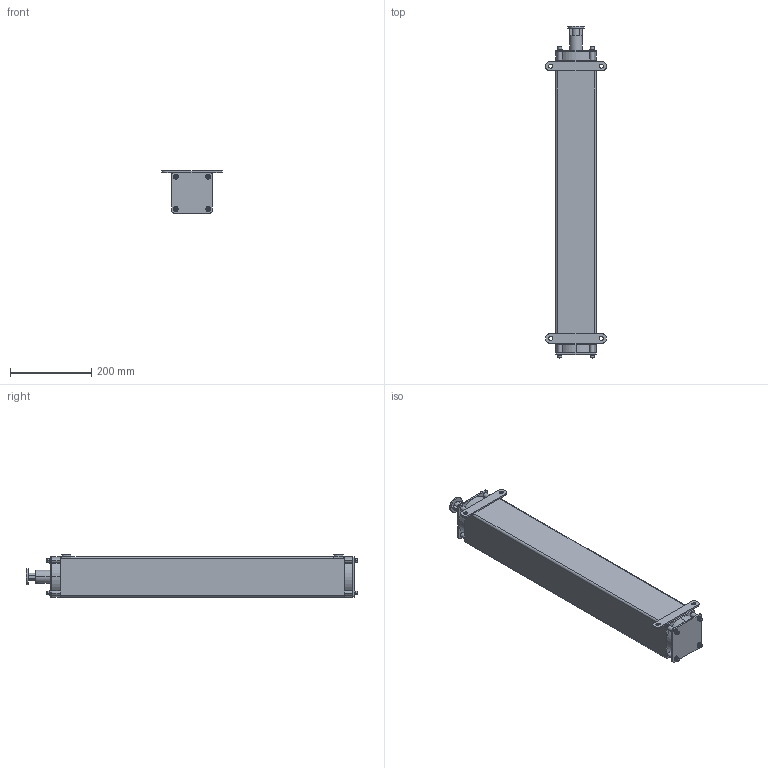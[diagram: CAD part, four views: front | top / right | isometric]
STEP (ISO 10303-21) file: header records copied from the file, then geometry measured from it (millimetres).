
FILE_DESCRIPTION((''),'2;1');
FILE_NAME('EFB-EX_ASM','2021-08-19T10:28:21',('18720616900'),(''),'CREO PARAMETRIC BY PTC INC, 2019010','CREO PARAMETRIC BY PTC INC, 2019010','');
FILE_SCHEMA(('CONFIG_CONTROL_DESIGN'));
Length unit declared in the file: millimetre
Products named in the file (6): EFB-EX-115; M6-50-0001; M6-1--00; M6-1-00; 0001_ASM; EFB-EX_ASM
Assembly tree (12 placements, depth 3):
  EFB-EX_ASM
    EFB-EX-115
    0001_ASM  x8
      M6-50-0001
      M6-1--00
      M6-1-00
Bounding box: 150 x 819.5 x 104 mm (x, y, z)
Volume: 980923.3 mm3; surface area: 622251.1 mm2
Topology: 25 solids, 33 shells, 1249 faces, 3236 edges, 2074 vertices
Faces by surface type: cone 488, plane 265, bspline 264, cylinder 182, torus 50
Entity records: 19619 total; most frequent: CARTESIAN_POINT 10839, ORIENTED_EDGE 1806, DIRECTION 1744, EDGE_CURVE 919, AXIS2_PLACEMENT_3D 655, VERTEX_POINT 597, VECTOR 434, LINE 434
